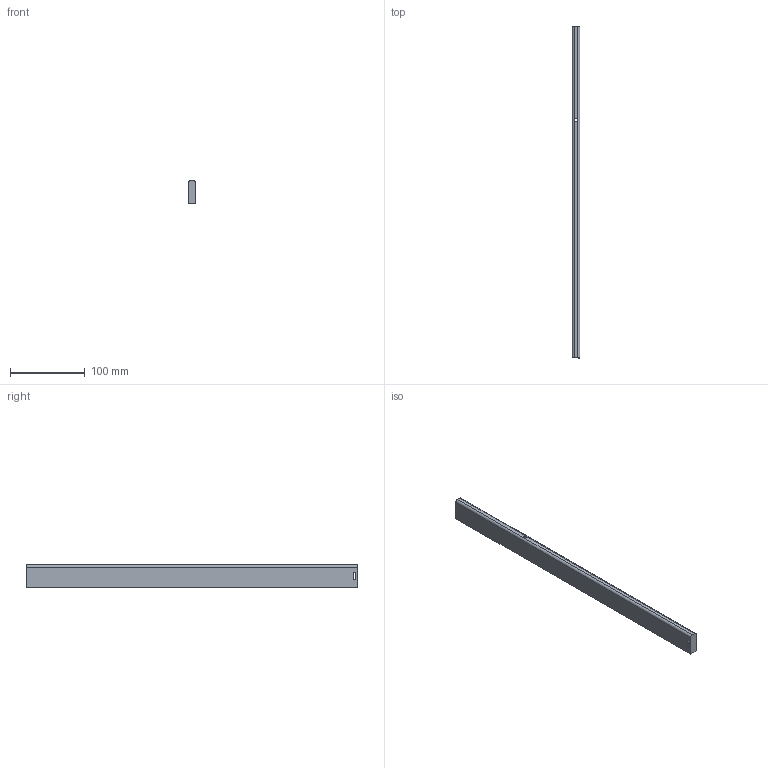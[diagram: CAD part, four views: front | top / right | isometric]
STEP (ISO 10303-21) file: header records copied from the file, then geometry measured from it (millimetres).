
FILE_DESCRIPTION (( 'STEP AP214' ), '1' );
FILE_NAME ('_Seitenreling_S760609500_RL444,5.step', '2010-09-06T14:51:34', ( 'grass' ), ( '' ), 'SwSTEP 2.0', 'SolidWorks 2010', '' );
FILE_SCHEMA (( 'AUTOMOTIVE_DESIGN' ));
Length unit declared in the file: millimetre
Products named in the file (1): _Seitenreling_S760609500_RL444,5
Bounding box: 10.5 x 444.5 x 30 mm (x, y, z)
Volume: 136914.4 mm3; surface area: 36335.3 mm2
Topology: 1 solids, 1 shells, 23 faces, 56 edges, 36 vertices
Faces by surface type: plane 15, cylinder 8
Entity records: 716 total; most frequent: DIRECTION 120, CARTESIAN_POINT 116, ORIENTED_EDGE 112, EDGE_CURVE 56, LINE 40, VECTOR 40, AXIS2_PLACEMENT_3D 40, VERTEX_POINT 36
